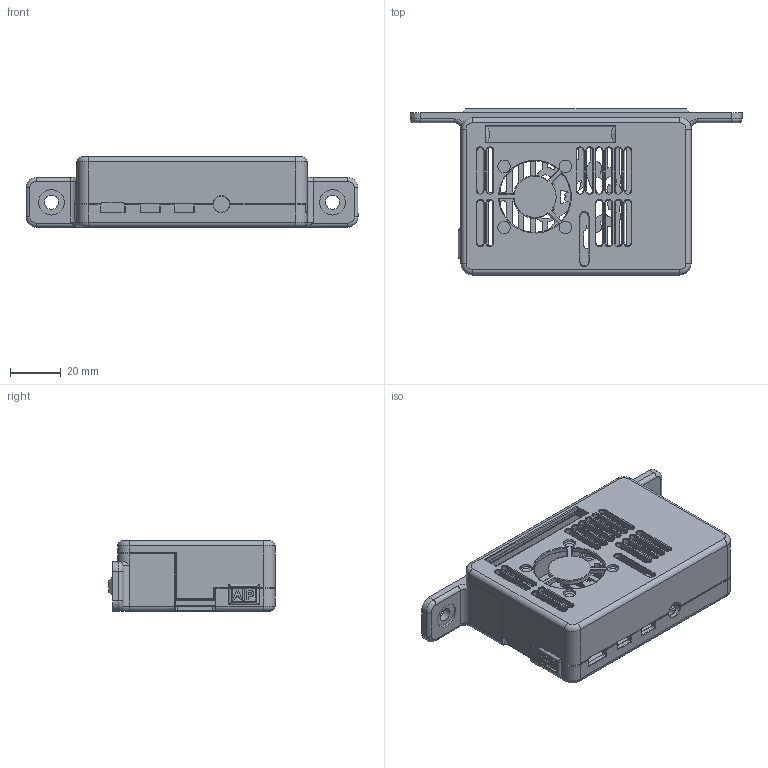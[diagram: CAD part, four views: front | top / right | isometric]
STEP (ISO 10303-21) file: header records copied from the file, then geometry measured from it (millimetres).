
FILE_DESCRIPTION(/* description */ (''),/* implementation_level */ '2;1');
FILE_NAME(/* name */ 'G:/Users/Arthur/3D Models/Raspberry Pi/Raspberry Pi 4 B Octoprint Case with Fan/With Lens/RasPi_Case.step',/* time_stamp */ '2020-04-10T15:48:18-04:00',/* author */ (''),/* organization */ (''),/* preprocessor_version */ 'ST-DEVELOPER v18',/* originating_system */ 'Autodesk Translation Framework v8.12.0.6',/* authorisation */ '');
FILE_SCHEMA (('AUTOMOTIVE_DESIGN { 1 0 10303 214 3 1 1 }'));
Products named in the file (1): Case
Bounding box: 130.2 x 65.1 x 27.6 mm (x, y, z)
Volume: 41638.3 mm3; surface area: 39706.1 mm2
Topology: 3 solids, 3 shells, 1050 faces, 2716 edges, 1675 vertices
Faces by surface type: plane 354, cylinder 352, bspline 180, torus 127, sphere 37
Full cylindrical faces by diameter (mm): 2.1 x4, 3.1 x4, 4.8 x4, 4.9 x4, 5.5 x2, 6.25 x4, 10 x2
Entity records: 46553 total; most frequent: CARTESIAN_POINT 21799, ORIENTED_EDGE 5432, DIRECTION 4842, EDGE_CURVE 2716, AXIS2_PLACEMENT_3D 1717, VERTEX_POINT 1675, LINE 1408, VECTOR 1408
